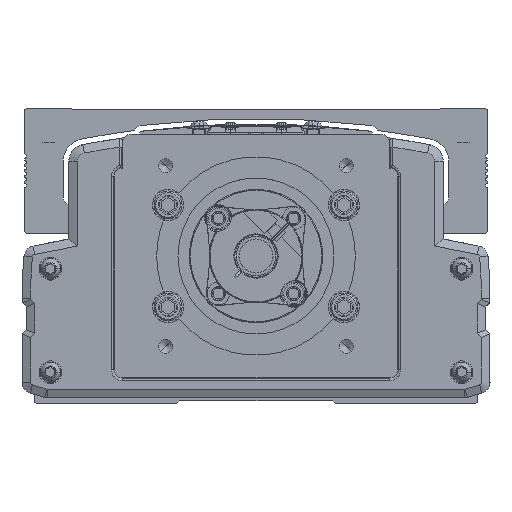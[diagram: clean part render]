
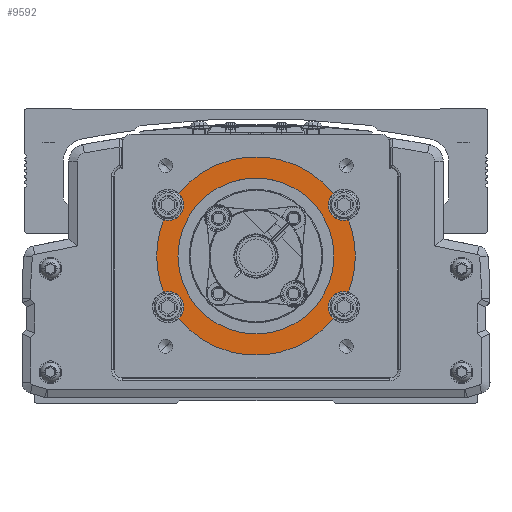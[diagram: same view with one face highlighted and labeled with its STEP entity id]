
A CAD part, front view. The second image highlights one B-rep face of the part: STEP entity #9592.
In plain terms, the highlighted planar face has unit normal (0, -1, 0).
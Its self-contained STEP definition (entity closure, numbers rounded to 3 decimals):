
#9592=ADVANCED_FACE('',(#19595,#19596),#19597,.F.);
#19595=FACE_OUTER_BOUND('',#32808,.T.);
#19596=FACE_BOUND('',#32809,.T.);
#19597=PLANE('',#32810);
#32808=EDGE_LOOP('',(#60780,#60781,#60782,#60783,#60784,#60785,#60786,#60787,#60788,#60789,#60790,#60791,#60792,#60793));
#32809=EDGE_LOOP('',(#60794,#60795));
#32810=AXIS2_PLACEMENT_3D('',#60796,#60797,#60798);
#60780=ORIENTED_EDGE('',*,*,#65316,.F.);
#60781=ORIENTED_EDGE('',*,*,#68156,.T.);
#60782=ORIENTED_EDGE('',*,*,#74336,.T.);
#60783=ORIENTED_EDGE('',*,*,#68477,.F.);
#60784=ORIENTED_EDGE('',*,*,#74587,.F.);
#60785=ORIENTED_EDGE('',*,*,#65783,.T.);
#60786=ORIENTED_EDGE('',*,*,#72874,.F.);
#60787=ORIENTED_EDGE('',*,*,#74969,.F.);
#60788=ORIENTED_EDGE('',*,*,#70180,.T.);
#60789=ORIENTED_EDGE('',*,*,#71069,.T.);
#60790=ORIENTED_EDGE('',*,*,#74490,.F.);
#60791=ORIENTED_EDGE('',*,*,#72181,.F.);
#60792=ORIENTED_EDGE('',*,*,#73498,.T.);
#60793=ORIENTED_EDGE('',*,*,#75307,.F.);
#60794=ORIENTED_EDGE('',*,*,#65987,.F.);
#60795=ORIENTED_EDGE('',*,*,#75308,.F.);
#60796=CARTESIAN_POINT('',(-600.,-546.778,0.));
#60797=DIRECTION('',(0.,1.0,0.));
#60798=DIRECTION('',(-1.0,0.,0.));
#65316=EDGE_CURVE('',#77979,#77981,#77982,.T.);
#65783=EDGE_CURVE('',#78798,#78802,#78804,.T.);
#65987=EDGE_CURVE('',#79162,#79158,#79164,.T.);
#68156=EDGE_CURVE('',#77979,#82924,#82927,.T.);
#68477=EDGE_CURVE('',#83440,#83442,#83443,.T.);
#70180=EDGE_CURVE('',#86021,#86019,#86022,.T.);
#71069=EDGE_CURVE('',#86019,#87301,#87303,.T.);
#72181=EDGE_CURVE('',#88830,#88832,#88833,.T.);
#72874=EDGE_CURVE('',#89726,#78802,#89728,.T.);
#73498=EDGE_CURVE('',#88830,#90494,#90496,.T.);
#74336=EDGE_CURVE('',#82924,#83442,#91489,.T.);
#74490=EDGE_CURVE('',#88832,#87301,#91659,.T.);
#74587=EDGE_CURVE('',#78798,#83440,#91768,.T.);
#74969=EDGE_CURVE('',#86021,#89726,#92181,.T.);
#75307=EDGE_CURVE('',#77981,#90494,#92532,.T.);
#75308=EDGE_CURVE('',#79158,#79162,#92533,.T.);
#77979=VERTEX_POINT('',#96137);
#77981=VERTEX_POINT('',#96140);
#77982=CIRCLE('',#96141,5.5);
#78798=VERTEX_POINT('',#97421);
#78802=VERTEX_POINT('',#97426);
#78804=CIRCLE('',#97429,35.0);
#79158=VERTEX_POINT('',#97910);
#79162=VERTEX_POINT('',#97915);
#79164=CIRCLE('',#97918,27.5);
#82924=VERTEX_POINT('',#103333);
#82927=CIRCLE('',#103337,35.0);
#83440=VERTEX_POINT('',#104071);
#83442=VERTEX_POINT('',#104074);
#83443=CIRCLE('',#104075,5.5);
#86019=VERTEX_POINT('',#107860);
#86021=VERTEX_POINT('',#107863);
#86022=CIRCLE('',#107864,35.0);
#87301=VERTEX_POINT('',#110122);
#87303=CIRCLE('',#110125,35.0);
#88830=VERTEX_POINT('',#112560);
#88832=VERTEX_POINT('',#112563);
#88833=CIRCLE('',#112564,5.5);
#89726=VERTEX_POINT('',#113800);
#89728=CIRCLE('',#113803,5.5);
#90494=VERTEX_POINT('',#114952);
#90496=CIRCLE('',#114955,35.0);
#91489=CIRCLE('',#116464,35.0);
#91659=CIRCLE('',#116721,5.5);
#91768=CIRCLE('',#116884,5.5);
#92181=CIRCLE('',#117456,5.5);
#92532=CIRCLE('',#117895,5.5);
#92533=CIRCLE('',#117896,27.5);
#96137=CARTESIAN_POINT('',(-632.6,-546.778,12.738));
#96140=CARTESIAN_POINT('',(-625.5,-546.778,18.));
#96141=AXIS2_PLACEMENT_3D('',#120179,#120180,#120181);
#97421=CARTESIAN_POINT('',(-627.223,-546.778,-21.998));
#97426=CARTESIAN_POINT('',(-572.777,-546.778,-21.998));
#97429=AXIS2_PLACEMENT_3D('',#120781,#120782,#120783);
#97910=CARTESIAN_POINT('',(-627.5,-546.778,0.));
#97915=CARTESIAN_POINT('',(-572.5,-546.778,0.));
#97918=AXIS2_PLACEMENT_3D('',#121114,#121115,#121116);
#103333=CARTESIAN_POINT('',(-635.,-546.778,0.));
#103337=AXIS2_PLACEMENT_3D('',#124363,#124364,#124365);
#104071=CARTESIAN_POINT('',(-625.5,-546.778,-18.));
#104074=CARTESIAN_POINT('',(-632.6,-546.778,-12.738));
#104075=AXIS2_PLACEMENT_3D('',#124842,#124843,#124844);
#107860=CARTESIAN_POINT('',(-565.,-546.778,0.));
#107863=CARTESIAN_POINT('',(-567.4,-546.778,-12.738));
#107864=AXIS2_PLACEMENT_3D('',#127193,#127194,#127195);
#110122=CARTESIAN_POINT('',(-567.4,-546.778,12.738));
#110125=AXIS2_PLACEMENT_3D('',#128287,#128288,#128289);
#112560=CARTESIAN_POINT('',(-572.777,-546.778,21.998));
#112563=CARTESIAN_POINT('',(-574.5,-546.778,18.));
#112564=AXIS2_PLACEMENT_3D('',#129718,#129719,#129720);
#113800=CARTESIAN_POINT('',(-574.5,-546.778,-18.));
#113803=AXIS2_PLACEMENT_3D('',#130552,#130553,#130554);
#114952=CARTESIAN_POINT('',(-627.223,-546.778,21.998));
#114955=AXIS2_PLACEMENT_3D('',#131237,#131238,#131239);
#116464=AXIS2_PLACEMENT_3D('',#132154,#132155,#132156);
#116721=AXIS2_PLACEMENT_3D('',#132295,#132296,#132297);
#116884=AXIS2_PLACEMENT_3D('',#132373,#132374,#132375);
#117456=AXIS2_PLACEMENT_3D('',#132675,#132676,#132677);
#117895=AXIS2_PLACEMENT_3D('',#132931,#132932,#132933);
#117896=AXIS2_PLACEMENT_3D('',#132934,#132935,#132936);
#120179=CARTESIAN_POINT('',(-631.,-546.778,18.));
#120180=DIRECTION('',(0.,-1.0,0.));
#120181=DIRECTION('',(-1.0,0.,0.));
#120781=CARTESIAN_POINT('',(-600.,-546.778,0.));
#120782=DIRECTION('',(0.,-1.0,0.));
#120783=DIRECTION('',(-1.0,0.,0.));
#121114=CARTESIAN_POINT('',(-600.,-546.778,0.));
#121115=DIRECTION('',(0.,-1.0,0.));
#121116=DIRECTION('',(-1.0,0.,0.));
#124363=CARTESIAN_POINT('',(-600.,-546.778,0.));
#124364=DIRECTION('',(0.,-1.0,0.));
#124365=DIRECTION('',(-1.0,0.,0.));
#124842=CARTESIAN_POINT('',(-631.,-546.778,-18.));
#124843=DIRECTION('',(0.,-1.0,0.));
#124844=DIRECTION('',(-1.0,0.,0.));
#127193=CARTESIAN_POINT('',(-600.,-546.778,0.));
#127194=DIRECTION('',(0.,-1.0,0.));
#127195=DIRECTION('',(-1.0,0.,0.));
#128287=CARTESIAN_POINT('',(-600.,-546.778,0.));
#128288=DIRECTION('',(0.,-1.0,0.));
#128289=DIRECTION('',(-1.0,0.,0.));
#129718=CARTESIAN_POINT('',(-569.,-546.778,18.));
#129719=DIRECTION('',(0.,-1.0,0.));
#129720=DIRECTION('',(1.0,0.,0.));
#130552=CARTESIAN_POINT('',(-569.,-546.778,-18.));
#130553=DIRECTION('',(0.,-1.0,0.));
#130554=DIRECTION('',(1.0,0.,0.));
#131237=CARTESIAN_POINT('',(-600.,-546.778,0.));
#131238=DIRECTION('',(0.,-1.0,0.));
#131239=DIRECTION('',(-1.0,0.,0.));
#132154=CARTESIAN_POINT('',(-600.,-546.778,0.));
#132155=DIRECTION('',(0.,-1.0,0.));
#132156=DIRECTION('',(-1.0,0.,0.));
#132295=CARTESIAN_POINT('',(-569.,-546.778,18.));
#132296=DIRECTION('',(0.,-1.0,0.));
#132297=DIRECTION('',(1.0,0.,0.));
#132373=CARTESIAN_POINT('',(-631.,-546.778,-18.));
#132374=DIRECTION('',(0.,-1.0,0.));
#132375=DIRECTION('',(-1.0,0.,0.));
#132675=CARTESIAN_POINT('',(-569.,-546.778,-18.));
#132676=DIRECTION('',(0.,-1.0,0.));
#132677=DIRECTION('',(1.0,0.,0.));
#132931=CARTESIAN_POINT('',(-631.,-546.778,18.));
#132932=DIRECTION('',(0.,-1.0,0.));
#132933=DIRECTION('',(-1.0,0.,0.));
#132934=CARTESIAN_POINT('',(-600.,-546.778,0.));
#132935=DIRECTION('',(0.,-1.0,0.));
#132936=DIRECTION('',(-1.0,0.,0.));
